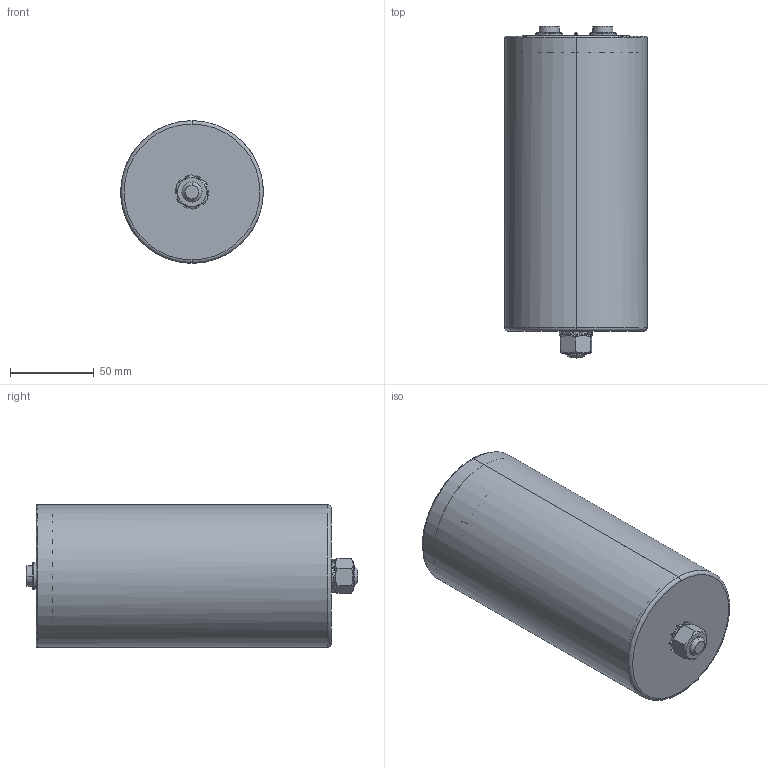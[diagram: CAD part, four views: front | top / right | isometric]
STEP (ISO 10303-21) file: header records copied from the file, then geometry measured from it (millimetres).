
FILE_DESCRIPTION (( 'STEP AP214' ), '1' );
FILE_NAME ('B25696 Series D85Hc176Ht182.STEP', '2025-03-20T05:35:39', ( '' ), ( '' ), 'SwSTEP 2.0', 'SolidWorks 2019', '' );
FILE_SCHEMA (( 'AUTOMOTIVE_DESIGN' ));
Length unit declared in the file: millimetre
Products named in the file (1): B25696 Series D85Hc176Ht182
Bounding box: 85 x 198 x 85 mm (x, y, z)
Volume: 119850.7 mm3; surface area: 130714.2 mm2
Topology: 1 solids, 2 shells, 275 faces, 754 edges, 488 vertices
Faces by surface type: plane 88, cylinder 70, cone 47, bspline 40, torus 30
Entity records: 9636 total; most frequent: CARTESIAN_POINT 3070, ORIENTED_EDGE 1500, DIRECTION 1212, EDGE_CURVE 750, VERTEX_POINT 488, AXIS2_PLACEMENT_3D 472, EDGE_LOOP 304, ADVANCED_FACE 275
